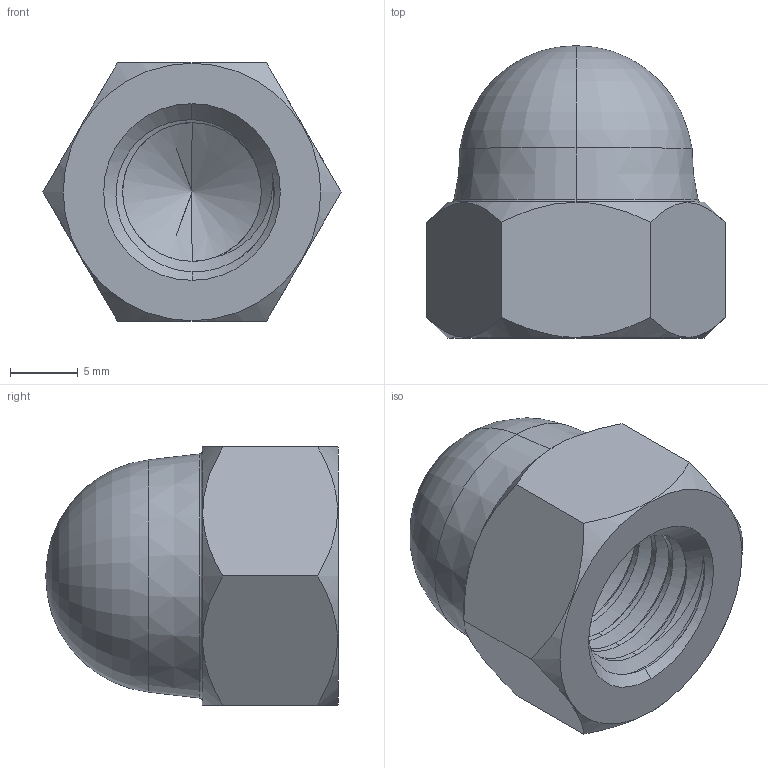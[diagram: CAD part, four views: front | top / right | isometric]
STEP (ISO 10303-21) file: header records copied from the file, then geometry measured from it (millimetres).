
FILE_DESCRIPTION (( 'STEP AP203' ), '1' );
FILE_NAME ('TAN_BAU_M12.STEP', '2026-08-24T08:27:51', ( '' ), ( '' ), 'SwSTEP 2.0', 'SolidWorks 2020', '' );
FILE_SCHEMA (( 'CONFIG_CONTROL_DESIGN' ));
Length unit declared in the file: millimetre
Products named in the file (1): TAN_BAU_M12
Bounding box: 21.94 x 21.5 x 19 mm (x, y, z)
Volume: 3457.2 mm3; surface area: 2476.5 mm2
Topology: 1 solids, 1 shells, 43 faces, 114 edges, 73 vertices
Faces by surface type: cylinder 16, cone 10, plane 10, torus 4, bspline 3
Entity records: 3265 total; most frequent: CARTESIAN_POINT 2275, ORIENTED_EDGE 224, DIRECTION 157, EDGE_CURVE 112, VERTEX_POINT 73, AXIS2_PLACEMENT_3D 62, EDGE_LOOP 45, ADVANCED_FACE 43
